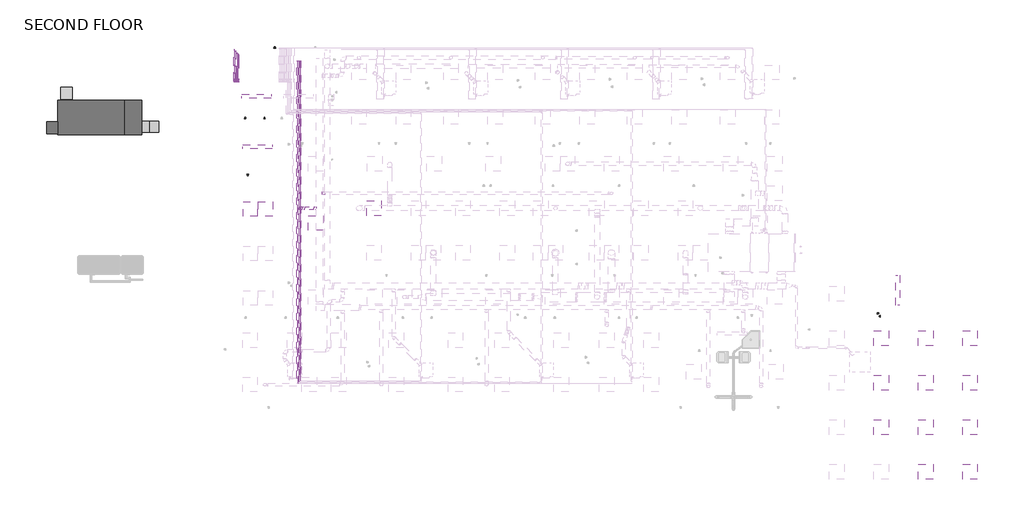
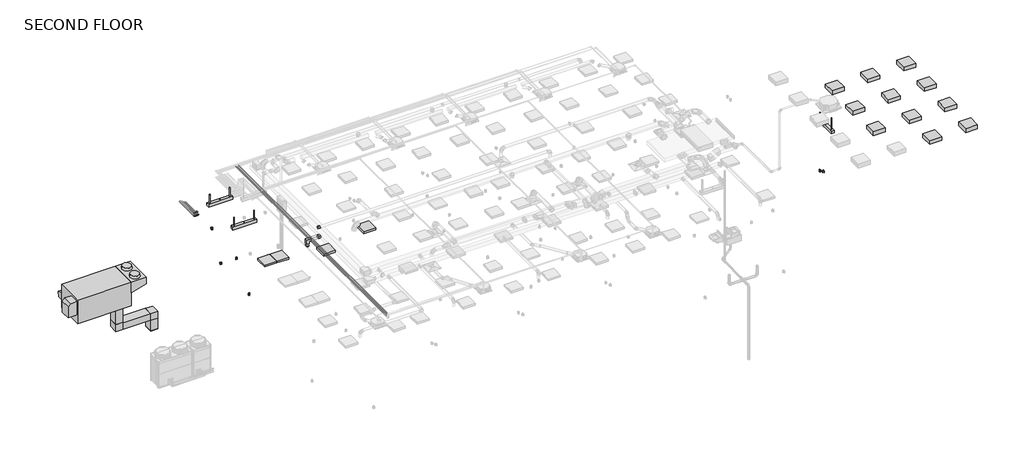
# One storey, part 6 of 12: 20 pipe segments, 18 light fixtures, 18 pipe fittings, 7 duct fittings, 5 duct segments, 5 proxies, 2 switching devices.
"""IFC4 building model written with IfcOpenShell, lengths in millimetres."""

from ifc_helpers import new_model, si_unit, point, frame, frame_2d, origin, place, context, project, spatial, polyline, circle_curve, trimmed, segment, composite_curve, outline, extrude, transform, mapped, element, save
from components import duplex_receptacle_countertop_10251bba, erv_unit_62530c4e, rectangular_elbow_mitered_transition_standard_b8ebfeb0, rectangular_elbow_mitered_standard_39dc9af9, rectangular_endcap_standard_943f7e42, rectangular_takeoff_standard_69442764, rectangular_to_round_transition_angle_45_degree_d16902a5, round_takeoff_standard_7fe2b2d5, suspended_fluorescent_strip_non_hosted_strip_light_1x4_120v_a3f3b401, suspended_fluorescent_strip_non_hosted_strip_light_1x4_120v_a5e6163e, troffer_corner_insert_2x2_3lamp_e67c7f8f, troffer_corner_insert_2x2_3lamp_high_profile_29e3a813, elbow_generic_standard_c06ac706, elbow_generic_standard_a088f956, elbow_generic_standard_ad6a8f26, transition_generic_standard_0bb1ffaf

model = new_model("IFC4")

# Units and contexts
model_context = context("Model", 3, world=origin())
ifc_project = project(units=[si_unit("LENGTHUNIT", "METRE", prefix="MILLI")], contexts=[model_context])

# Site, building, storey
site = spatial("IfcSite", under=ifc_project)
building = spatial("IfcBuilding", under=site)
storey = spatial("IfcBuildingStorey", under=building, Name="SECOND FLOOR", Elevation=34544.0)

# Proxies
placement = place(None, origin())
duplex_receptacle_countertop_shape = duplex_receptacle_countertop_10251bba(model_context)
element("IfcBuildingElementProxy", 1, Name="Duplex Receptacle : Standard", ObjectType="Duplex Receptacle : Standard", at=placement, inside=storey, context=model_context, shape_type="MappedRepresentation", body=[
    mapped(duplex_receptacle_countertop_shape, transform((-9404.6633655, 4757.1445005, 35001.2), x_axis=(1.0, 0.0, 0.0), y_axis=(0.0, 0.0, 1.0), z_axis=(0.0, -1.0, 0.0))),
])
element("IfcBuildingElementProxy", 2, Name="Duplex Receptacle : Standard", ObjectType="Duplex Receptacle : Standard", at=placement, inside=storey, context=model_context, shape_type="MappedRepresentation", body=[
    mapped(duplex_receptacle_countertop_shape, transform((-8606.7536655, 4757.1445005, 35001.2), x_axis=(1.0, 0.0, 0.0), y_axis=(0.0, 0.0, 1.0), z_axis=(0.0, -1.0, 0.0))),
])
element("IfcBuildingElementProxy", 3, Name="Duplex Receptacle : Standard", ObjectType="Duplex Receptacle : Standard", at=placement, inside=storey, context=model_context, shape_type="MappedRepresentation", body=[
    mapped(duplex_receptacle_countertop_shape, transform((-9296.8227016, 2471.1445005, 34696.4), x_axis=(-1.0, 0.0, 0.0), y_axis=(0.0, 0.0, 1.0), z_axis=(0.0, 1.0, 0.0))),
])
element("IfcBuildingElementProxy", 4, Name="Duplex Receptacle : Standard", ObjectType="Duplex Receptacle : Standard", at=placement, inside=storey, context=model_context, shape_type="MappedRepresentation", body=[
    mapped(duplex_receptacle_countertop_shape, transform((-8185.6346572, 7671.7945005, 34696.4), x_axis=(1.0, 0.0, 0.0), y_axis=(0.0, 0.0, 1.0), z_axis=(0.0, -1.0, 0.0))),
])
erv_unit_shape = erv_unit_62530c4e(model_context)
element("IfcBuildingElementProxy", 5, Name="Energy Recovery-ER_H : ERV Unit", ObjectType="Energy Recovery-ER_H : ERV Unit", at=placement, inside=storey, context=model_context, shape_type="MappedRepresentation", body=[
    mapped(erv_unit_shape, transform((-16940.9565088, 4788.6445412, 34899.6), x_axis=(1.0000000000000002, 0.0, 0.0), y_axis=(0.0, 1.0000000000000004, 0.0), z_axis=(0.0, 0.0, 1.0000000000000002))),
])

# Duct fittings
rectangular_elbow_mitered_transition_standard_shape = rectangular_elbow_mitered_transition_standard_b8ebfeb0(model_context)
element("IfcDuctFitting", 6, ObjectType="Rectangular Elbow - Mitered - Transition : Standard", at=placement, inside=storey, context=model_context, shape_type="MappedRepresentation", body=[
    mapped(rectangular_elbow_mitered_transition_standard_shape, transform((-7114.2204607, 1077.3195005, 37693.6), x_axis=(-1.0, 0.0, 0.0), y_axis=(0.0, 0.0, -1.0), z_axis=(0.0, -1.0, 0.0))),
])
rectangular_elbow_mitered_standard_shape = rectangular_elbow_mitered_standard_39dc9af9(model_context)
element("IfcDuctFitting", 7, ObjectType="Rectangular Elbow - Mitered : Standard", at=placement, inside=storey, context=model_context, shape_type="MappedRepresentation", body=[
    mapped(rectangular_elbow_mitered_standard_shape, transform((-14924.7204607, 4430.1195005, 33832.8), x_axis=(0.0, 0.0, -1.0), y_axis=(1.0, 0.0, 0.0), z_axis=(0.0, -1.0, 0.0))),
])
element("IfcDuctFitting", 8, ObjectType="Rectangular Elbow - Mitered : Standard", at=placement, inside=storey, context=model_context, shape_type="MappedRepresentation", body=[
    mapped(rectangular_elbow_mitered_standard_shape, transform((-13138.544811, 4430.1195005, 33832.8), x_axis=(0.0, 0.0, 1.0), y_axis=(-1.0, 0.0, 0.0), z_axis=(0.0, -1.0, 0.0))),
])
rectangular_endcap_standard_shape = rectangular_endcap_standard_943f7e42(model_context)
element("IfcDuctFitting", 9, ObjectType="Rectangular Endcap : Standard", at=placement, inside=storey, context=model_context, shape_type="MappedRepresentation", body=[
    mapped(rectangular_endcap_standard_shape, transform((-13138.544811, 4430.1195005, 33070.8), x_axis=(0.0, 0.0, -1.0), y_axis=(0.0, 1.0, 0.0), z_axis=(1.0, 0.0, 0.0))),
])
rectangular_takeoff_standard_shape = rectangular_takeoff_standard_69442764(model_context)
element("IfcDuctFitting", 10, ObjectType="Rectangular Takeoff : Standard", at=placement, inside=storey, context=model_context, shape_type="MappedRepresentation", body=[
    mapped(rectangular_takeoff_standard_shape, transform((-6474.3126806, 1077.3195005, 37693.6), x_axis=(-1.0, 0.0, 0.0), y_axis=(0.0, 1.0, 0.0), z_axis=(0.0, 0.0, -1.0))),
])
rectangular_to_round_transition_angle_45_degree_shape = rectangular_to_round_transition_angle_45_degree_d16902a5(model_context)
element("IfcDuctFitting", 11, ObjectType="Rectangular to Round Transition - Angle : 45 Degree", at=placement, inside=storey, context=model_context, shape_type="MappedRepresentation", body=[
    mapped(rectangular_to_round_transition_angle_45_degree_shape, transform((-7114.2204607, 1077.3195005, 37420.55), x_axis=(0.0, 0.0, -1.0), y_axis=(-1.0, 0.0, 0.0), z_axis=(0.0, 1.0, 0.0))),
])
round_takeoff_standard_shape = round_takeoff_standard_7fe2b2d5(model_context)
element("IfcDuctFitting", 12, ObjectType="Round Takeoff : Standard", at=placement, inside=storey, context=model_context, shape_type="MappedRepresentation", body=[
    mapped(round_takeoff_standard_shape, transform((-6220.3126806, 1686.9195005, 37693.6), x_axis=(1.0, 0.0, 0.0), y_axis=(0.0, 1.0, 0.0), z_axis=(0.0, 0.0, 1.0))),
])

# Duct segments
element("IfcDuctSegment", 13, ObjectType="Mitered Elbows / Taps", at=placement, inside=storey, context=model_context, shape_type="SweptSolid", body=[
    extrude(outline(polyline([(-13316.344811, 4658.7195005), (-12960.744811, 4658.7195005), (-12960.744811, 4201.5195005), (-13316.344811, 4201.5195005), (-13316.344811, 4658.7195005)])), frame((0.0, 0.0, 33070.8), z_axis=(0.0, 0.0, 1.0), x_axis=(1.0, 0.0, 0.0)), (0.0, 0.0, 1.0), 558.8),
])
element("IfcDuctSegment", 14, ObjectType="Mitered Elbows / Taps", at=placement, inside=storey, context=model_context, shape_type="SweptSolid", body=[
    extrude(outline(polyline([(-15102.5204607, 4658.7195005), (-14746.9204607, 4658.7195005), (-14746.9204607, 4201.5195005), (-15102.5204607, 4201.5195005), (-15102.5204607, 4658.7195005)])), frame((0.0, 0.0, 34036.0), z_axis=(0.0, 0.0, 1.0), x_axis=(1.0, 0.0, 0.0)), (0.0, 0.0, 1.0), 812.8),
])
element("IfcDuctSegment", 15, ObjectType="Mitered Elbows / Taps", at=placement, inside=storey, context=model_context, shape_type="SweptSolid", body=[
    extrude(outline(polyline([(-14721.5204607, 4201.5195005), (-14721.5204607, 4658.7195005), (-13341.744811, 4658.7195005), (-13341.744811, 4201.5195005), (-14721.5204607, 4201.5195005)])), frame((0.0, 0.0, 33655.0), z_axis=(0.0, 0.0, 1.0), x_axis=(1.0, 0.0, 0.0)), (0.0, 0.0, 1.0), 355.6),
])
element("IfcDuctSegment", 16, ObjectType="Mitered Elbows / Taps", at=placement, inside=storey, context=model_context, shape_type="SweptSolid", body=[
    extrude(outline(polyline([(-7050.7204607, 1013.8195005), (-7177.7204607, 1013.8195005), (-7177.7204607, 1140.8195005), (-7050.7204607, 1140.8195005), (-7050.7204607, 1013.8195005)])), frame((0.0, 0.0, 37420.55), z_axis=(0.0, 0.0, 1.0), x_axis=(1.0, 0.0, 0.0)), (0.0, 0.0, 1.0), 107.95),
])
element("IfcDuctSegment", 17, ObjectType="Mitered Elbows / Taps", at=placement, inside=storey, context=model_context, shape_type="SweptSolid", body=[
    extrude(outline(polyline([(-6575.9126806, 1140.8195005), (-6575.9126806, 1013.8195005), (-6949.1204607, 1013.8195005), (-6949.1204607, 1140.8195005), (-6575.9126806, 1140.8195005)])), frame((0.0, 0.0, 37630.1), z_axis=(0.0, 0.0, 1.0), x_axis=(1.0, 0.0, 0.0)), (0.0, 0.0, 1.0), 127.0),
])

# Light fixtures
suspended_fluorescent_strip_non_hosted_strip_light_1x4_120v_shape = suspended_fluorescent_strip_non_hosted_strip_light_1x4_120v_a3f3b401(model_context)
element("IfcLightFixture", 18, ObjectType="Suspended Fluorescent Strip - Non-Hosted : Strip Light 1x4 - 120V Normal", at=placement, inside=storey, context=model_context, shape_type="MappedRepresentation", body=[
    mapped(suspended_fluorescent_strip_non_hosted_strip_light_1x4_120v_shape, transform((-8934.2892107, 5679.9210752, 37592.0), x_axis=(1.0, 0.0, 0.0), y_axis=(0.0, 1.0, 0.0), z_axis=(0.0, 0.0, 1.0))),
])
element("IfcLightFixture", 19, ObjectType="Suspended Fluorescent Strip - Non-Hosted : Strip Light 1x4 - 120V Normal", at=placement, inside=storey, context=model_context, shape_type="MappedRepresentation", body=[
    mapped(suspended_fluorescent_strip_non_hosted_strip_light_1x4_120v_shape, transform((-8889.8863587, 3607.272796, 37592.0), x_axis=(1.0, 0.0, 0.0), y_axis=(0.0, 1.0, 0.0), z_axis=(0.0, 0.0, 1.0))),
])
suspended_fluorescent_strip_non_hosted_strip_light_1x4_120v_2_shape = suspended_fluorescent_strip_non_hosted_strip_light_1x4_120v_a5e6163e(model_context)
element("IfcLightFixture", 20, ObjectType="Suspended Fluorescent Strip - Non-Hosted : Strip Light 1x4 - 120V Normal", at=placement, inside=storey, context=model_context, shape_type="MappedRepresentation", body=[
    mapped(suspended_fluorescent_strip_non_hosted_strip_light_1x4_120v_2_shape, transform((17450.9604425, -2302.0646313, 37287.2), x_axis=(0.0, 1.0000000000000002, 0.0), y_axis=(-1.0000000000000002, 0.0, 0.0), z_axis=(0.0, 0.0, 1.0))),
])
troffer_corner_insert_2x2_3lamp_shape = troffer_corner_insert_2x2_3lamp_e67c7f8f(model_context)
element("IfcLightFixture", 21, ObjectType="Troffer Corner Insert : 2x2 3Lamp", at=placement, inside=storey, context=model_context, shape_type="MappedRepresentation", body=[
    mapped(troffer_corner_insert_2x2_3lamp_shape, transform((-6504.6204607, 467.7195005, 34848.8), x_axis=(1.0, 0.0, 0.0), y_axis=(0.0, 1.0, 0.0), z_axis=(0.0, 0.0, 1.0))),
])
element("IfcLightFixture", 22, ObjectType="Troffer Corner Insert : 2x2 3Lamp", at=placement, inside=storey, context=model_context, shape_type="MappedRepresentation", body=[
    mapped(troffer_corner_insert_2x2_3lamp_shape, transform((-4098.7642107, 1077.3195005, 34848.8), x_axis=(1.0, 0.0, 0.0), y_axis=(0.0, 1.0, 0.0), z_axis=(0.0, 0.0, 1.0))),
])
element("IfcLightFixture", 23, ObjectType="Troffer Corner Insert : 2x2 3Lamp", at=placement, inside=storey, context=model_context, shape_type="MappedRepresentation", body=[
    mapped(troffer_corner_insert_2x2_3lamp_shape, transform((-9184.3204607, 1040.8070005, 34848.8), x_axis=(1.0, 0.0, 0.0), y_axis=(0.0, 1.0, 0.0), z_axis=(0.0, 0.0, 1.0))),
])
element("IfcLightFixture", 24, ObjectType="Troffer Corner Insert : 2x2 3Lamp", at=placement, inside=storey, context=model_context, shape_type="MappedRepresentation", body=[
    mapped(troffer_corner_insert_2x2_3lamp_shape, transform((-8574.7204607, 1040.8070005, 34848.8), x_axis=(1.0, 0.0, 0.0), y_axis=(0.0, 1.0, 0.0), z_axis=(0.0, 0.0, 1.0))),
])
troffer_corner_insert_2x2_3lamp_high_profile_shape = troffer_corner_insert_2x2_3lamp_high_profile_29e3a813(model_context)
element("IfcLightFixture", 25, ObjectType="Troffer Corner Insert : 2x2 3Lamp High Profile", at=placement, inside=storey, context=model_context, shape_type="MappedRepresentation", body=[
    mapped(troffer_corner_insert_2x2_3lamp_high_profile_shape, transform((16767.1445338, -6104.5304995, 38303.2), x_axis=(1.0, 0.0, 0.0), y_axis=(0.0, 1.0, 0.0), z_axis=(0.0, 0.0, 1.0))),
])
element("IfcLightFixture", 26, ObjectType="Troffer Corner Insert : 2x2 3Lamp High Profile", at=placement, inside=storey, context=model_context, shape_type="MappedRepresentation", body=[
    mapped(troffer_corner_insert_2x2_3lamp_high_profile_shape, transform((18595.9445338, -6104.5304995, 38303.2), x_axis=(1.0, 0.0, 0.0), y_axis=(0.0, 1.0, 0.0), z_axis=(0.0, 0.0, 1.0))),
])
element("IfcLightFixture", 27, ObjectType="Troffer Corner Insert : 2x2 3Lamp High Profile", at=placement, inside=storey, context=model_context, shape_type="MappedRepresentation", body=[
    mapped(troffer_corner_insert_2x2_3lamp_high_profile_shape, transform((20424.7445338, -6104.5304995, 38303.2), x_axis=(1.0, 0.0, 0.0), y_axis=(0.0, 1.0, 0.0), z_axis=(0.0, 0.0, 1.0))),
])
element("IfcLightFixture", 28, ObjectType="Troffer Corner Insert : 2x2 3Lamp High Profile", at=placement, inside=storey, context=model_context, shape_type="MappedRepresentation", body=[
    mapped(troffer_corner_insert_2x2_3lamp_high_profile_shape, transform((16767.1445338, -7933.3304995, 38303.2), x_axis=(1.0, 0.0, 0.0), y_axis=(0.0, 1.0, 0.0), z_axis=(0.0, 0.0, 1.0))),
])
element("IfcLightFixture", 29, ObjectType="Troffer Corner Insert : 2x2 3Lamp High Profile", at=placement, inside=storey, context=model_context, shape_type="MappedRepresentation", body=[
    mapped(troffer_corner_insert_2x2_3lamp_high_profile_shape, transform((18595.9445338, -7933.3304995, 38303.2), x_axis=(1.0, 0.0, 0.0), y_axis=(0.0, 1.0, 0.0), z_axis=(0.0, 0.0, 1.0))),
])
element("IfcLightFixture", 30, ObjectType="Troffer Corner Insert : 2x2 3Lamp High Profile", at=placement, inside=storey, context=model_context, shape_type="MappedRepresentation", body=[
    mapped(troffer_corner_insert_2x2_3lamp_high_profile_shape, transform((20424.7445338, -7933.3304995, 38303.2), x_axis=(1.0, 0.0, 0.0), y_axis=(0.0, 1.0, 0.0), z_axis=(0.0, 0.0, 1.0))),
])
element("IfcLightFixture", 31, ObjectType="Troffer Corner Insert : 2x2 3Lamp High Profile", at=placement, inside=storey, context=model_context, shape_type="MappedRepresentation", body=[
    mapped(troffer_corner_insert_2x2_3lamp_high_profile_shape, transform((18595.9445338, -9762.1304995, 38303.2), x_axis=(1.0, 0.0, 0.0), y_axis=(0.0, 1.0, 0.0), z_axis=(0.0, 0.0, 1.0))),
])
element("IfcLightFixture", 32, ObjectType="Troffer Corner Insert : 2x2 3Lamp High Profile", at=placement, inside=storey, context=model_context, shape_type="MappedRepresentation", body=[
    mapped(troffer_corner_insert_2x2_3lamp_high_profile_shape, transform((20424.7445338, -9762.1304995, 38303.2), x_axis=(1.0, 0.0, 0.0), y_axis=(0.0, 1.0, 0.0), z_axis=(0.0, 0.0, 1.0))),
])
element("IfcLightFixture", 33, ObjectType="Troffer Corner Insert : 2x2 3Lamp High Profile", at=placement, inside=storey, context=model_context, shape_type="MappedRepresentation", body=[
    mapped(troffer_corner_insert_2x2_3lamp_high_profile_shape, transform((16767.1445338, -4275.7304995, 38303.2), x_axis=(1.0, 0.0, 0.0), y_axis=(0.0, 1.0, 0.0), z_axis=(0.0, 0.0, 1.0))),
])
element("IfcLightFixture", 34, ObjectType="Troffer Corner Insert : 2x2 3Lamp High Profile", at=placement, inside=storey, context=model_context, shape_type="MappedRepresentation", body=[
    mapped(troffer_corner_insert_2x2_3lamp_high_profile_shape, transform((18595.9445338, -4275.7304995, 38303.2), x_axis=(1.0, 0.0, 0.0), y_axis=(0.0, 1.0, 0.0), z_axis=(0.0, 0.0, 1.0))),
])
element("IfcLightFixture", 35, ObjectType="Troffer Corner Insert : 2x2 3Lamp High Profile", at=placement, inside=storey, context=model_context, shape_type="MappedRepresentation", body=[
    mapped(troffer_corner_insert_2x2_3lamp_high_profile_shape, transform((20424.7445338, -4275.7304995, 38303.2), x_axis=(1.0, 0.0, 0.0), y_axis=(0.0, 1.0, 0.0), z_axis=(0.0, 0.0, 1.0))),
])

# Pipe fittings
elbow_generic_standard_shape = elbow_generic_standard_c06ac706(model_context)
element("IfcPipeFitting", 36, ObjectType="Elbow - Generic : Standard", at=placement, inside=storey, context=model_context, shape_type="MappedRepresentation", body=[
    mapped(elbow_generic_standard_shape, transform((-9866.3353043, 6273.907626, 36811.1484375), x_axis=(0.0, -1.0, 0.0), y_axis=(0.0, 0.0, 1.0), z_axis=(-1.0, 0.0, 0.0))),
])
element("IfcPipeFitting", 37, ObjectType="Elbow - Generic : Standard", at=placement, inside=storey, context=model_context, shape_type="MappedRepresentation", body=[
    mapped(elbow_generic_standard_shape, transform((-9866.3353043, 6273.907626, 36830.0), x_axis=(0.0, 0.0, 1.0), y_axis=(0.0, 1.0, 0.0), z_axis=(-1.0, 0.0, 0.0))),
])
element("IfcPipeFitting", 38, ObjectType="Elbow - Generic : Standard", at=placement, inside=storey, context=model_context, shape_type="MappedRepresentation", body=[
    mapped(elbow_generic_standard_shape, transform((-9806.3353043, 6273.9076209, 36811.1484375), x_axis=(0.0, -1.0, 0.0), y_axis=(0.0, 0.0, 1.0), z_axis=(-1.0, 0.0, 0.0))),
])
element("IfcPipeFitting", 39, ObjectType="Elbow - Generic : Standard", at=placement, inside=storey, context=model_context, shape_type="MappedRepresentation", body=[
    mapped(elbow_generic_standard_shape, transform((-9806.3353043, 6273.9076209, 36830.0), x_axis=(0.0, 0.0, 1.0), y_axis=(0.0, 1.0, 0.0), z_axis=(-1.0, 0.0, 0.0))),
])
element("IfcPipeFitting", 40, ObjectType="Elbow - Generic : Standard", at=placement, inside=storey, context=model_context, shape_type="MappedRepresentation", body=[
    mapped(elbow_generic_standard_shape, transform((-9746.3353043, 6273.9076209, 36811.1484375), x_axis=(0.0, -1.0, 0.0), y_axis=(0.0, 0.0, 1.0), z_axis=(-1.0, 0.0, 0.0))),
])
element("IfcPipeFitting", 41, ObjectType="Elbow - Generic : Standard", at=placement, inside=storey, context=model_context, shape_type="MappedRepresentation", body=[
    mapped(elbow_generic_standard_shape, transform((-9746.3353043, 6273.9076209, 36830.0), x_axis=(0.0, 0.0, 1.0), y_axis=(0.0, 1.0, 0.0), z_axis=(-1.0, 0.0, 0.0))),
])
element("IfcPipeFitting", 42, ObjectType="Elbow - Generic : Standard", at=placement, inside=storey, context=model_context, shape_type="MappedRepresentation", body=[
    mapped(elbow_generic_standard_shape, transform((-9686.3353043, 6273.9076209, 36811.1484375), x_axis=(0.0, -1.0, 0.0), y_axis=(0.0, 0.0, 1.0), z_axis=(-1.0, 0.0, 0.0))),
])
element("IfcPipeFitting", 43, ObjectType="Elbow - Generic : Standard", at=placement, inside=storey, context=model_context, shape_type="MappedRepresentation", body=[
    mapped(elbow_generic_standard_shape, transform((-9686.3353043, 6273.9076209, 36830.0), x_axis=(0.0, 0.0, 1.0), y_axis=(0.0, 1.0, 0.0), z_axis=(-1.0, 0.0, 0.0))),
])
elbow_generic_standard_2_shape = elbow_generic_standard_a088f956(model_context)
element("IfcPipeFitting", 44, ObjectType="Elbow - Generic : Standard", at=placement, inside=storey, context=model_context, shape_type="MappedRepresentation", body=[
    mapped(elbow_generic_standard_2_shape, transform((-9866.3353043, 6324.7076245, 36779.2), x_axis=(0.0, 0.0, 1.0), y_axis=(0.0, 1.0, 0.0), z_axis=(-1.0, 0.0, 0.0))),
])
element("IfcPipeFitting", 45, ObjectType="Elbow - Generic : Standard", at=placement, inside=storey, context=model_context, shape_type="MappedRepresentation", body=[
    mapped(elbow_generic_standard_2_shape, transform((-9806.3353043, 6324.7076209, 36779.2), x_axis=(0.0, 0.0, 1.0), y_axis=(0.0, 1.0, 0.0), z_axis=(-1.0, 0.0, 0.0))),
])
element("IfcPipeFitting", 46, ObjectType="Elbow - Generic : Standard", at=placement, inside=storey, context=model_context, shape_type="MappedRepresentation", body=[
    mapped(elbow_generic_standard_2_shape, transform((-9746.3353043, 6324.7076209, 36779.2), x_axis=(0.0, 0.0, 1.0), y_axis=(0.0, 1.0, 0.0), z_axis=(-1.0, 0.0, 0.0))),
])
element("IfcPipeFitting", 47, ObjectType="Elbow - Generic : Standard", at=placement, inside=storey, context=model_context, shape_type="MappedRepresentation", body=[
    mapped(elbow_generic_standard_2_shape, transform((-9686.3353043, 6324.7076209, 36779.2), x_axis=(0.0, 0.0, 1.0), y_axis=(0.0, 1.0, 0.0), z_axis=(-1.0, 0.0, 0.0))),
])
elbow_generic_standard_3_shape = elbow_generic_standard_ad6a8f26(model_context)
element("IfcPipeFitting", 48, ObjectType="Elbow - Generic : Standard", at=placement, inside=storey, context=model_context, shape_type="MappedRepresentation", body=[
    mapped(elbow_generic_standard_3_shape, transform((-9866.3353043, 6324.7076245, 36941.125), x_axis=(0.0, -0.9999999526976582, -0.00030757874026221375), y_axis=(0.0, -0.00030757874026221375, 0.9999999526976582), z_axis=(-1.0, 0.0, 0.0))),
])
element("IfcPipeFitting", 49, ObjectType="Elbow - Generic : Standard", at=placement, inside=storey, context=model_context, shape_type="MappedRepresentation", body=[
    mapped(elbow_generic_standard_3_shape, transform((-9806.3353043, 6324.7076209, 36941.125), x_axis=(0.0, -0.9999999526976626, -0.0003075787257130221), y_axis=(0.0, -0.0003075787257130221, 0.9999999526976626), z_axis=(-1.0, 0.0, 0.0))),
])
element("IfcPipeFitting", 50, ObjectType="Elbow - Generic : Standard", at=placement, inside=storey, context=model_context, shape_type="MappedRepresentation", body=[
    mapped(elbow_generic_standard_3_shape, transform((-9746.3353043, 6324.7076209, 36941.125), x_axis=(0.0, -0.9999999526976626, -0.0003075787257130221), y_axis=(0.0, -0.0003075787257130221, 0.9999999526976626), z_axis=(-1.0, 0.0, 0.0))),
])
element("IfcPipeFitting", 51, ObjectType="Elbow - Generic : Standard", at=placement, inside=storey, context=model_context, shape_type="MappedRepresentation", body=[
    mapped(elbow_generic_standard_3_shape, transform((-9686.3353043, 6324.7076209, 36941.125), x_axis=(0.0, -0.9999999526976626, -0.0003075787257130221), y_axis=(0.0, -0.0003075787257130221, 0.9999999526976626), z_axis=(-1.0, 0.0, 0.0))),
])
transition_generic_standard_shape = transition_generic_standard_0bb1ffaf(model_context)
element("IfcPipeFitting", 52, ObjectType="Transition - Generic : Standard", at=placement, inside=storey, context=model_context, shape_type="MappedRepresentation", body=[
    mapped(transition_generic_standard_shape, transform((-9866.3353043, 6338.9951245, 36779.2), x_axis=(0.0, 1.0, 0.0), y_axis=(-1.0, 0.0, 0.0), z_axis=(0.0, 0.0, 1.0))),
])
element("IfcPipeFitting", 53, ObjectType="Transition - Generic : Standard", at=placement, inside=storey, context=model_context, shape_type="MappedRepresentation", body=[
    mapped(transition_generic_standard_shape, transform((-9806.3353043, 6338.9951209, 36779.2), x_axis=(0.0, 1.0, 0.0), y_axis=(-1.0, 0.0, 0.0), z_axis=(0.0, 0.0, 1.0))),
])

# Pipe segments
element("IfcPipeSegment", 54, ObjectType="Copper Tubing", at=placement, inside=storey, context=model_context, shape_type="SweptSolid", body=[
    extrude(outline(composite_curve([segment(trimmed(circle_curve(frame_2d((38049.2, -7265.9854607)), 7.9375), [point((38049.2, -7258.0479607))], [point((38057.1375, -7265.9854607))], False, "CARTESIAN"), True, "CONTINUOUS"), segment(trimmed(circle_curve(frame_2d((38049.2, -7265.9854607)), 7.9375), [point((38057.1375, -7265.9854607))], [point((38049.2, -7273.9229607))], False, "CARTESIAN"), True, "CONTINUOUS"), segment(trimmed(circle_curve(frame_2d((38049.2, -7265.9854607)), 7.9375), [point((38049.2, -7273.9229607))], [point((38041.2625, -7265.9854607))], False, "CARTESIAN"), True, "CONTINUOUS"), segment(trimmed(circle_curve(frame_2d((38049.2, -7265.9854607)), 7.9375), [point((38041.2625, -7265.9854607))], [point((38049.2, -7258.0479607))], False, "CARTESIAN"), True, "CONTINUOUS")], self_intersect=False)), frame((0.0, -5917.2054995, 0.0), z_axis=(0.0, 1.0, 0.0), x_axis=(0.0, 0.0, 1.0)), (0.0, 0.0, 1.0), 13066.7125),
])
element("IfcPipeSegment", 55, ObjectType="Copper Tubing", at=placement, inside=storey, context=model_context, shape_type="SweptSolid", body=[
    extrude(outline(composite_curve([segment(trimmed(circle_curve(frame_2d((37998.4, -7215.1854607)), 7.9375), [point((37998.4, -7207.2479607))], [point((38006.3375, -7215.1854607))], False, "CARTESIAN"), True, "CONTINUOUS"), segment(trimmed(circle_curve(frame_2d((37998.4, -7215.1854607)), 7.9375), [point((38006.3375, -7215.1854607))], [point((37998.4, -7223.1229607))], False, "CARTESIAN"), True, "CONTINUOUS"), segment(trimmed(circle_curve(frame_2d((37998.4, -7215.1854607)), 7.9375), [point((37998.4, -7223.1229607))], [point((37990.4625, -7215.1854607))], False, "CARTESIAN"), True, "CONTINUOUS"), segment(trimmed(circle_curve(frame_2d((37998.4, -7215.1854607)), 7.9375), [point((37990.4625, -7215.1854607))], [point((37998.4, -7207.2479607))], False, "CARTESIAN"), True, "CONTINUOUS")], self_intersect=False)), frame((0.0, -6120.4054995, 0.0), z_axis=(0.0, 1.0, 0.0), x_axis=(0.0, 0.0, 1.0)), (0.0, 0.0, 1.0), 13269.9125),
])
element("IfcPipeSegment", 56, ObjectType="Copper Tubing", at=placement, inside=storey, context=model_context, shape_type="SweptSolid", body=[
    extrude(outline(composite_curve([segment(trimmed(circle_curve(frame_2d((37998.4, -7164.3854607)), 7.9375), [point((37998.4, -7172.3229607))], [point((37990.4625, -7164.3854607))], False, "CARTESIAN"), True, "CONTINUOUS"), segment(trimmed(circle_curve(frame_2d((37998.4, -7164.3854607)), 7.9375), [point((37990.4625, -7164.3854607))], [point((37998.4, -7156.4479607))], False, "CARTESIAN"), True, "CONTINUOUS"), segment(trimmed(circle_curve(frame_2d((37998.4, -7164.3854607)), 7.9375), [point((37998.4, -7156.4479607))], [point((38006.3375, -7164.3854607))], False, "CARTESIAN"), True, "CONTINUOUS"), segment(trimmed(circle_curve(frame_2d((37998.4, -7164.3854607)), 7.9375), [point((38006.3375, -7164.3854607))], [point((37998.4, -7172.3229607))], False, "CARTESIAN"), True, "CONTINUOUS")], self_intersect=False)), frame((0.0, -6069.6054995, 0.0), z_axis=(0.0, 1.0, 0.0), x_axis=(0.0, 0.0, 1.0)), (0.0, 0.0, 1.0), 13219.1125),
])
element("IfcPipeSegment", 57, ObjectType="Copper Tubing", at=placement, inside=storey, context=model_context, shape_type="SweptSolid", body=[
    extrude(outline(composite_curve([segment(trimmed(circle_curve(frame_2d((38049.2, -7113.5854607)), 7.9375), [point((38049.2, -7121.5229607))], [point((38041.2625, -7113.5854607))], False, "CARTESIAN"), True, "CONTINUOUS"), segment(trimmed(circle_curve(frame_2d((38049.2, -7113.5854607)), 7.9375), [point((38041.2625, -7113.5854607))], [point((38049.2, -7105.6479607))], False, "CARTESIAN"), True, "CONTINUOUS"), segment(trimmed(circle_curve(frame_2d((38049.2, -7113.5854607)), 7.9375), [point((38049.2, -7105.6479607))], [point((38057.1375, -7113.5854607))], False, "CARTESIAN"), True, "CONTINUOUS"), segment(trimmed(circle_curve(frame_2d((38049.2, -7113.5854607)), 7.9375), [point((38057.1375, -7113.5854607))], [point((38049.2, -7121.5229607))], False, "CARTESIAN"), True, "CONTINUOUS")], self_intersect=False)), frame((0.0, -6018.8054995, 0.0), z_axis=(0.0, 1.0, 0.0), x_axis=(0.0, 0.0, 1.0)), (0.0, 0.0, 1.0), 13168.3125),
])
element("IfcPipeSegment", 58, ObjectType="Copper Tubing", at=placement, inside=storey, context=model_context, shape_type="SweptSolid", body=[
    extrude(outline(composite_curve([segment(trimmed(circle_curve(frame_2d((36811.1484375, -9866.3353043)), 14.2875), [point((36811.1484375, -9880.6228043))], [point((36796.8609375, -9866.3353043))], False, "CARTESIAN"), True, "CONTINUOUS"), segment(trimmed(circle_curve(frame_2d((36811.1484375, -9866.3353043)), 14.2875), [point((36796.8609375, -9866.3353043))], [point((36811.1484375, -9852.0478043))], False, "CARTESIAN"), True, "CONTINUOUS"), segment(trimmed(circle_curve(frame_2d((36811.1484375, -9866.3353043)), 14.2875), [point((36811.1484375, -9852.0478043))], [point((36825.4359375, -9866.3353043))], False, "CARTESIAN"), True, "CONTINUOUS"), segment(trimmed(circle_curve(frame_2d((36811.1484375, -9866.3353043)), 14.2875), [point((36825.4359375, -9866.3353043))], [point((36811.1484375, -9880.6228043))], False, "CARTESIAN"), True, "CONTINUOUS")], self_intersect=False)), frame((0.0, 6294.545126, 0.0), z_axis=(0.0, 1.0, 0.0), x_axis=(0.0, 0.0, 1.0)), (0.0, 0.0, 1.0), 106.3624949),
])
element("IfcPipeSegment", 59, ObjectType="Copper Tubing", at=placement, inside=storey, context=model_context, shape_type="SweptSolid", body=[
    extrude(outline(composite_curve([segment(trimmed(circle_curve(frame_2d((36811.1484375, -9806.3353043)), 14.2875), [point((36811.1484375, -9820.6228043))], [point((36796.8609375, -9806.3353043))], False, "CARTESIAN"), True, "CONTINUOUS"), segment(trimmed(circle_curve(frame_2d((36811.1484375, -9806.3353043)), 14.2875), [point((36796.8609375, -9806.3353043))], [point((36811.1484375, -9792.0478043))], False, "CARTESIAN"), True, "CONTINUOUS"), segment(trimmed(circle_curve(frame_2d((36811.1484375, -9806.3353043)), 14.2875), [point((36811.1484375, -9792.0478043))], [point((36825.4359375, -9806.3353043))], False, "CARTESIAN"), True, "CONTINUOUS"), segment(trimmed(circle_curve(frame_2d((36811.1484375, -9806.3353043)), 14.2875), [point((36825.4359375, -9806.3353043))], [point((36811.1484375, -9820.6228043))], False, "CARTESIAN"), True, "CONTINUOUS")], self_intersect=False)), frame((0.0, 6294.5451209, 0.0), z_axis=(0.0, 1.0, 0.0), x_axis=(0.0, 0.0, 1.0)), (0.0, 0.0, 1.0), 106.3625),
])
element("IfcPipeSegment", 60, ObjectType="Copper Tubing", at=placement, inside=storey, context=model_context, shape_type="SweptSolid", body=[
    extrude(outline(composite_curve([segment(trimmed(circle_curve(frame_2d((36811.1484375, -9746.3353043)), 14.2875), [point((36811.1484375, -9760.6228043))], [point((36796.8609375, -9746.3353043))], False, "CARTESIAN"), True, "CONTINUOUS"), segment(trimmed(circle_curve(frame_2d((36811.1484375, -9746.3353043)), 14.2875), [point((36796.8609375, -9746.3353043))], [point((36811.1484375, -9732.0478043))], False, "CARTESIAN"), True, "CONTINUOUS"), segment(trimmed(circle_curve(frame_2d((36811.1484375, -9746.3353043)), 14.2875), [point((36811.1484375, -9732.0478043))], [point((36825.4359375, -9746.3353043))], False, "CARTESIAN"), True, "CONTINUOUS"), segment(trimmed(circle_curve(frame_2d((36811.1484375, -9746.3353043)), 14.2875), [point((36825.4359375, -9746.3353043))], [point((36811.1484375, -9760.6228043))], False, "CARTESIAN"), True, "CONTINUOUS")], self_intersect=False)), frame((0.0, 6294.5451209, 0.0), z_axis=(0.0, 1.0, 0.0), x_axis=(0.0, 0.0, 1.0)), (0.0, 0.0, 1.0), 106.3625),
])
element("IfcPipeSegment", 61, ObjectType="Copper Tubing", at=placement, inside=storey, context=model_context, shape_type="SweptSolid", body=[
    extrude(outline(composite_curve([segment(trimmed(circle_curve(frame_2d((36811.1484375, -9686.3353043)), 14.2875), [point((36811.1484375, -9700.6228043))], [point((36796.8609375, -9686.3353043))], False, "CARTESIAN"), True, "CONTINUOUS"), segment(trimmed(circle_curve(frame_2d((36811.1484375, -9686.3353043)), 14.2875), [point((36796.8609375, -9686.3353043))], [point((36811.1484375, -9672.0478043))], False, "CARTESIAN"), True, "CONTINUOUS"), segment(trimmed(circle_curve(frame_2d((36811.1484375, -9686.3353043)), 14.2875), [point((36811.1484375, -9672.0478043))], [point((36825.4359375, -9686.3353043))], False, "CARTESIAN"), True, "CONTINUOUS"), segment(trimmed(circle_curve(frame_2d((36811.1484375, -9686.3353043)), 14.2875), [point((36825.4359375, -9686.3353043))], [point((36811.1484375, -9700.6228043))], False, "CARTESIAN"), True, "CONTINUOUS")], self_intersect=False)), frame((0.0, 6294.5451209, 0.0), z_axis=(0.0, 1.0, 0.0), x_axis=(0.0, 0.0, 1.0)), (0.0, 0.0, 1.0), 106.3625),
])
element("IfcPipeSegment", 62, ObjectType="Copper Tubing", at=placement, inside=storey, context=model_context, shape_type="SweptSolid", body=[
    extrude(outline(composite_curve([segment(trimmed(circle_curve(frame_2d((36830.0, -9866.3353043)), 14.2875), [point((36830.0, -9880.6228043))], [point((36815.7125, -9866.3353043))], False, "CARTESIAN"), True, "CONTINUOUS"), segment(trimmed(circle_curve(frame_2d((36830.0, -9866.3353043)), 14.2875), [point((36815.7125, -9866.3353043))], [point((36830.0, -9852.0478043))], False, "CARTESIAN"), True, "CONTINUOUS"), segment(trimmed(circle_curve(frame_2d((36830.0, -9866.3353043)), 14.2875), [point((36830.0, -9852.0478043))], [point((36844.2875, -9866.3353043))], False, "CARTESIAN"), True, "CONTINUOUS"), segment(trimmed(circle_curve(frame_2d((36830.0, -9866.3353043)), 14.2875), [point((36844.2875, -9866.3353043))], [point((36830.0, -9880.6228043))], False, "CARTESIAN"), True, "CONTINUOUS")], self_intersect=False)), frame((0.0, 6294.545126, 0.0), z_axis=(0.0, 1.0, 0.0), x_axis=(0.0, 0.0, 1.0)), (0.0, 0.0, 1.0), 1285.4774951),
])
element("IfcPipeSegment", 63, ObjectType="Copper Tubing", at=placement, inside=storey, context=model_context, shape_type="SweptSolid", body=[
    extrude(outline(composite_curve([segment(trimmed(circle_curve(frame_2d((36830.0, -9806.3353043)), 14.2875), [point((36830.0, -9820.6228043))], [point((36815.7125, -9806.3353043))], False, "CARTESIAN"), True, "CONTINUOUS"), segment(trimmed(circle_curve(frame_2d((36830.0, -9806.3353043)), 14.2875), [point((36815.7125, -9806.3353043))], [point((36830.0, -9792.0478043))], False, "CARTESIAN"), True, "CONTINUOUS"), segment(trimmed(circle_curve(frame_2d((36830.0, -9806.3353043)), 14.2875), [point((36830.0, -9792.0478043))], [point((36844.2875, -9806.3353043))], False, "CARTESIAN"), True, "CONTINUOUS"), segment(trimmed(circle_curve(frame_2d((36830.0, -9806.3353043)), 14.2875), [point((36844.2875, -9806.3353043))], [point((36830.0, -9820.6228043))], False, "CARTESIAN"), True, "CONTINUOUS")], self_intersect=False)), frame((0.0, 6294.5451209, 0.0), z_axis=(0.0, 1.0, 0.0), x_axis=(0.0, 0.0, 1.0)), (0.0, 0.0, 1.0), 1213.1553675),
])
element("IfcPipeSegment", 64, ObjectType="Copper Tubing", at=placement, inside=storey, context=model_context, shape_type="SweptSolid", body=[
    extrude(outline(composite_curve([segment(trimmed(circle_curve(frame_2d((36830.0, -9746.3353043)), 14.2875), [point((36830.0, -9760.6228043))], [point((36815.7125, -9746.3353043))], False, "CARTESIAN"), True, "CONTINUOUS"), segment(trimmed(circle_curve(frame_2d((36830.0, -9746.3353043)), 14.2875), [point((36815.7125, -9746.3353043))], [point((36830.0, -9732.0478043))], False, "CARTESIAN"), True, "CONTINUOUS"), segment(trimmed(circle_curve(frame_2d((36830.0, -9746.3353043)), 14.2875), [point((36830.0, -9732.0478043))], [point((36844.2875, -9746.3353043))], False, "CARTESIAN"), True, "CONTINUOUS"), segment(trimmed(circle_curve(frame_2d((36830.0, -9746.3353043)), 14.2875), [point((36844.2875, -9746.3353043))], [point((36830.0, -9760.6228043))], False, "CARTESIAN"), True, "CONTINUOUS")], self_intersect=False)), frame((0.0, 6294.5451209, 0.0), z_axis=(0.0, 1.0, 0.0), x_axis=(0.0, 0.0, 1.0)), (0.0, 0.0, 1.0), 1150.6102144),
])
element("IfcPipeSegment", 65, ObjectType="Copper Tubing", at=placement, inside=storey, context=model_context, shape_type="SweptSolid", body=[
    extrude(outline(composite_curve([segment(trimmed(circle_curve(frame_2d((36830.0, -9686.3353043)), 14.2875), [point((36830.0, -9700.6228043))], [point((36815.7125, -9686.3353043))], False, "CARTESIAN"), True, "CONTINUOUS"), segment(trimmed(circle_curve(frame_2d((36830.0, -9686.3353043)), 14.2875), [point((36815.7125, -9686.3353043))], [point((36830.0, -9672.0478043))], False, "CARTESIAN"), True, "CONTINUOUS"), segment(trimmed(circle_curve(frame_2d((36830.0, -9686.3353043)), 14.2875), [point((36830.0, -9672.0478043))], [point((36844.2875, -9686.3353043))], False, "CARTESIAN"), True, "CONTINUOUS"), segment(trimmed(circle_curve(frame_2d((36830.0, -9686.3353043)), 14.2875), [point((36844.2875, -9686.3353043))], [point((36830.0, -9700.6228043))], False, "CARTESIAN"), True, "CONTINUOUS")], self_intersect=False)), frame((0.0, 6294.5451209, 0.0), z_axis=(0.0, 1.0, 0.0), x_axis=(0.0, 0.0, 1.0)), (0.0, 0.0, 1.0), 1094.5188136),
])
element("IfcPipeSegment", 66, ObjectType="Copper Tubing", at=placement, inside=storey, context=model_context, shape_type="SweptSolid", body=[
    extrude(outline(composite_curve([segment(trimmed(circle_curve(frame_2d((0.0, -7.9375)), 7.9375), [point((0.0, 0.0))], [point((7.9375, -7.9375))], False, "CARTESIAN"), True, "CONTINUOUS"), segment(trimmed(circle_curve(frame_2d((0.0, -7.9375)), 7.9375), [point((7.9375, -7.9375))], [point((0.0, -15.875))], False, "CARTESIAN"), True, "CONTINUOUS"), segment(trimmed(circle_curve(frame_2d((0.0, -7.9375)), 7.9375), [point((0.0, -15.875))], [point((-7.9375, -7.9375))], False, "CARTESIAN"), True, "CONTINUOUS"), segment(trimmed(circle_curve(frame_2d((0.0, -7.9375)), 7.9375), [point((-7.9375, -7.9375))], [point((0.0, 0.0))], False, "CARTESIAN"), True, "CONTINUOUS")], self_intersect=False)), frame((-9874.2728043, 6338.9995191, 36941.1293959), z_axis=(0.0, 0.9999999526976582, 0.0003075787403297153), x_axis=(0.0, 0.0003075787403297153, -0.9999999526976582)), (0.0, 0.0, 1.0), 61.9081048),
])
element("IfcPipeSegment", 67, ObjectType="Copper Tubing", at=placement, inside=storey, context=model_context, shape_type="SweptSolid", body=[
    extrude(outline(composite_curve([segment(trimmed(circle_curve(frame_2d((0.0, -7.9375)), 7.9375), [point((0.0, 0.0))], [point((7.9375, -7.9375))], False, "CARTESIAN"), True, "CONTINUOUS"), segment(trimmed(circle_curve(frame_2d((0.0, -7.9375)), 7.9375), [point((7.9375, -7.9375))], [point((0.0, -15.875))], False, "CARTESIAN"), True, "CONTINUOUS"), segment(trimmed(circle_curve(frame_2d((0.0, -7.9375)), 7.9375), [point((0.0, -15.875))], [point((-7.9375, -7.9375))], False, "CARTESIAN"), True, "CONTINUOUS"), segment(trimmed(circle_curve(frame_2d((0.0, -7.9375)), 7.9375), [point((-7.9375, -7.9375))], [point((0.0, 0.0))], False, "CARTESIAN"), True, "CONTINUOUS")], self_intersect=False)), frame((-9814.2728043, 6338.9995154, 36941.1293959), z_axis=(0.0, 0.9999999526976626, 0.00030757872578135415), x_axis=(0.0, 0.00030757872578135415, -0.9999999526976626)), (0.0, 0.0, 1.0), 61.9081084),
])
element("IfcPipeSegment", 68, ObjectType="Copper Tubing", at=placement, inside=storey, context=model_context, shape_type="SweptSolid", body=[
    extrude(outline(composite_curve([segment(trimmed(circle_curve(frame_2d((0.0, -7.9375)), 7.9375), [point((0.0, 0.0))], [point((7.9375, -7.9375))], False, "CARTESIAN"), True, "CONTINUOUS"), segment(trimmed(circle_curve(frame_2d((0.0, -7.9375)), 7.9375), [point((7.9375, -7.9375))], [point((0.0, -15.875))], False, "CARTESIAN"), True, "CONTINUOUS"), segment(trimmed(circle_curve(frame_2d((0.0, -7.9375)), 7.9375), [point((0.0, -15.875))], [point((-7.9375, -7.9375))], False, "CARTESIAN"), True, "CONTINUOUS"), segment(trimmed(circle_curve(frame_2d((0.0, -7.9375)), 7.9375), [point((-7.9375, -7.9375))], [point((0.0, 0.0))], False, "CARTESIAN"), True, "CONTINUOUS")], self_intersect=False)), frame((-9754.2728043, 6338.9995154, 36941.1293959), z_axis=(0.0, 0.9999999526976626, 0.00030757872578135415), x_axis=(0.0, 0.00030757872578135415, -0.9999999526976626)), (0.0, 0.0, 1.0), 61.9081084),
])
element("IfcPipeSegment", 69, ObjectType="Copper Tubing", at=placement, inside=storey, context=model_context, shape_type="SweptSolid", body=[
    extrude(outline(composite_curve([segment(trimmed(circle_curve(frame_2d((0.0, -7.9375)), 7.9375), [point((0.0, 0.0))], [point((7.9375, -7.9375))], False, "CARTESIAN"), True, "CONTINUOUS"), segment(trimmed(circle_curve(frame_2d((0.0, -7.9375)), 7.9375), [point((7.9375, -7.9375))], [point((0.0, -15.875))], False, "CARTESIAN"), True, "CONTINUOUS"), segment(trimmed(circle_curve(frame_2d((0.0, -7.9375)), 7.9375), [point((0.0, -15.875))], [point((-7.9375, -7.9375))], False, "CARTESIAN"), True, "CONTINUOUS"), segment(trimmed(circle_curve(frame_2d((0.0, -7.9375)), 7.9375), [point((-7.9375, -7.9375))], [point((0.0, 0.0))], False, "CARTESIAN"), True, "CONTINUOUS")], self_intersect=False)), frame((-9694.2728043, 6338.9995154, 36941.1293959), z_axis=(0.0, 0.9999999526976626, 0.00030757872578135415), x_axis=(0.0, 0.00030757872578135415, -0.9999999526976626)), (0.0, 0.0, 1.0), 61.9081084),
])
element("IfcPipeSegment", 70, ObjectType="Copper Tubing", at=placement, inside=storey, context=model_context, shape_type="SweptSolid", body=[
    extrude(outline(composite_curve([segment(trimmed(circle_curve(frame_2d((36779.2, -9866.3353043)), 11.1125), [point((36779.2, -9877.4478043))], [point((36768.0875, -9866.3353043))], False, "CARTESIAN"), True, "CONTINUOUS"), segment(trimmed(circle_curve(frame_2d((36779.2, -9866.3353043)), 11.1125), [point((36768.0875, -9866.3353043))], [point((36779.2, -9855.2228043))], False, "CARTESIAN"), True, "CONTINUOUS"), segment(trimmed(circle_curve(frame_2d((36779.2, -9866.3353043)), 11.1125), [point((36779.2, -9855.2228043))], [point((36790.3125, -9866.3353043))], False, "CARTESIAN"), True, "CONTINUOUS"), segment(trimmed(circle_curve(frame_2d((36779.2, -9866.3353043)), 11.1125), [point((36790.3125, -9866.3353043))], [point((36779.2, -9877.4478043))], False, "CARTESIAN"), True, "CONTINUOUS")], self_intersect=False)), frame((0.0, 6344.5513745, 0.0), z_axis=(0.0, 1.0, 0.0), x_axis=(0.0, 0.0, 1.0)), (0.0, 0.0, 1.0), 1271.632313),
])
element("IfcPipeSegment", 71, ObjectType="Copper Tubing", at=placement, inside=storey, context=model_context, shape_type="SweptSolid", body=[
    extrude(outline(composite_curve([segment(trimmed(circle_curve(frame_2d((36779.2, -9806.3353043)), 11.1125), [point((36779.2, -9817.4478043))], [point((36768.0875, -9806.3353043))], False, "CARTESIAN"), True, "CONTINUOUS"), segment(trimmed(circle_curve(frame_2d((36779.2, -9806.3353043)), 11.1125), [point((36768.0875, -9806.3353043))], [point((36779.2, -9795.2228043))], False, "CARTESIAN"), True, "CONTINUOUS"), segment(trimmed(circle_curve(frame_2d((36779.2, -9806.3353043)), 11.1125), [point((36779.2, -9795.2228043))], [point((36790.3125, -9806.3353043))], False, "CARTESIAN"), True, "CONTINUOUS"), segment(trimmed(circle_curve(frame_2d((36779.2, -9806.3353043)), 11.1125), [point((36790.3125, -9806.3353043))], [point((36779.2, -9817.4478043))], False, "CARTESIAN"), True, "CONTINUOUS")], self_intersect=False)), frame((0.0, 6344.5513709, 0.0), z_axis=(0.0, 1.0, 0.0), x_axis=(0.0, 0.0, 1.0)), (0.0, 0.0, 1.0), 1205.6601839),
])
element("IfcPipeSegment", 72, ObjectType="Copper Tubing", at=placement, inside=storey, context=model_context, shape_type="SweptSolid", body=[
    extrude(outline(composite_curve([segment(trimmed(circle_curve(frame_2d((36779.2, -9746.3353043)), 7.9375), [point((36779.2, -9754.2728043))], [point((36771.2625, -9746.3353043))], False, "CARTESIAN"), True, "CONTINUOUS"), segment(trimmed(circle_curve(frame_2d((36779.2, -9746.3353043)), 7.9375), [point((36771.2625, -9746.3353043))], [point((36779.2, -9738.3978043))], False, "CARTESIAN"), True, "CONTINUOUS"), segment(trimmed(circle_curve(frame_2d((36779.2, -9746.3353043)), 7.9375), [point((36779.2, -9738.3978043))], [point((36787.1375, -9746.3353043))], False, "CARTESIAN"), True, "CONTINUOUS"), segment(trimmed(circle_curve(frame_2d((36779.2, -9746.3353043)), 7.9375), [point((36787.1375, -9746.3353043))], [point((36779.2, -9754.2728043))], False, "CARTESIAN"), True, "CONTINUOUS")], self_intersect=False)), frame((0.0, 6338.9951209, 0.0), z_axis=(0.0, 1.0, 0.0), x_axis=(0.0, 0.0, 1.0)), (0.0, 0.0, 1.0), 1142.0693012),
])
element("IfcPipeSegment", 73, ObjectType="Copper Tubing", at=placement, inside=storey, context=model_context, shape_type="SweptSolid", body=[
    extrude(outline(composite_curve([segment(trimmed(circle_curve(frame_2d((36779.2, -9686.3353043)), 7.9375), [point((36779.2, -9694.2728043))], [point((36771.2625, -9686.3353043))], False, "CARTESIAN"), True, "CONTINUOUS"), segment(trimmed(circle_curve(frame_2d((36779.2, -9686.3353043)), 7.9375), [point((36771.2625, -9686.3353043))], [point((36779.2, -9678.3978043))], False, "CARTESIAN"), True, "CONTINUOUS"), segment(trimmed(circle_curve(frame_2d((36779.2, -9686.3353043)), 7.9375), [point((36779.2, -9678.3978043))], [point((36787.1375, -9686.3353043))], False, "CARTESIAN"), True, "CONTINUOUS"), segment(trimmed(circle_curve(frame_2d((36779.2, -9686.3353043)), 7.9375), [point((36787.1375, -9686.3353043))], [point((36779.2, -9694.2728043))], False, "CARTESIAN"), True, "CONTINUOUS")], self_intersect=False)), frame((0.0, 6338.9951209, 0.0), z_axis=(0.0, 1.0, 0.0), x_axis=(0.0, 0.0, 1.0)), (0.0, 0.0, 1.0), 1085.2487867),
])

# Switching devices
element("IfcSwitchingDevice", 74, ObjectType="Lighting Switches : Single Pole", at=placement, inside=storey, context=model_context, shape_type="MappedRepresentation", body=[
    mapped(duplex_receptacle_countertop_shape, transform((16733.9486799, -3367.7431864, 35763.2), x_axis=(0.0, 1.0, 0.0), y_axis=(0.0, 0.0, 1.0), z_axis=(1.0, 0.0, 0.0))),
])
element("IfcSwitchingDevice", 75, ObjectType="Lighting Switches : Three Way", at=placement, inside=storey, context=model_context, shape_type="MappedRepresentation", body=[
    mapped(duplex_receptacle_countertop_shape, transform((16610.1236799, -3251.1568354, 35763.2), x_axis=(0.0, -1.0, 0.0), y_axis=(0.0, 0.0, 1.0), z_axis=(-1.0, 0.0, 0.0))),
])

save(model, "model.ifc")
